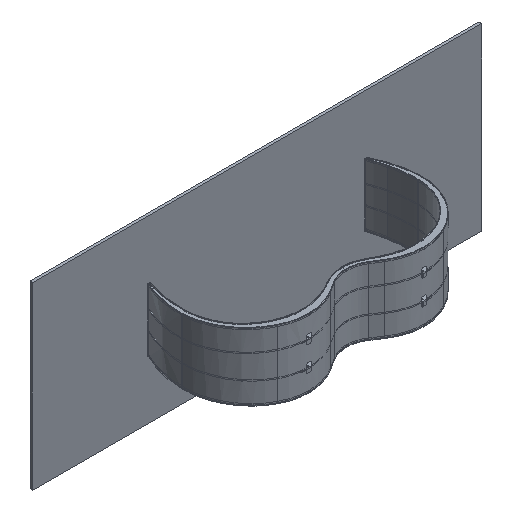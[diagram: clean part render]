
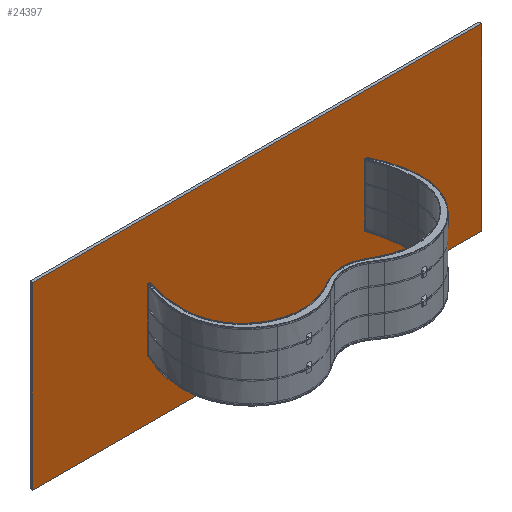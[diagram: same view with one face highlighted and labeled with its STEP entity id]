
A CAD part, isometric view. The second image highlights one B-rep face of the part: STEP entity #24397.
In plain terms, the highlighted planar face has unit normal (0, -1, 0).
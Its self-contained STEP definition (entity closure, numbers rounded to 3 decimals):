
#240 = VERTEX_POINT ( 'NONE', #9665 ) ;
#407 = VECTOR ( 'NONE', #1129, 1000. ) ;
#1129 = DIRECTION ( 'NONE',  ( 0., 0., 1. ) ) ;
#1268 = DIRECTION ( 'NONE',  ( 0., -1., 0. ) ) ;
#1282 = VERTEX_POINT ( 'NONE', #26096 ) ;
#2052 = ORIENTED_EDGE ( 'NONE', *, *, #13782, .F. ) ;
#3345 = ORIENTED_EDGE ( 'NONE', *, *, #17561, .F. ) ;
#4253 = CARTESIAN_POINT ( 'NONE',  ( 1500., 0., -600. ) ) ;
#4965 = CIRCLE ( 'NONE', #28993, 5. ) ;
#5071 = EDGE_CURVE ( 'NONE', #33673, #1282, #24598, .T. ) ;
#5507 = DIRECTION ( 'NONE',  ( 0., -1., 0. ) ) ;
#6039 = DIRECTION ( 'NONE',  ( 0., -1., 0. ) ) ;
#7929 = VERTEX_POINT ( 'NONE', #27678 ) ;
#7930 = DIRECTION ( 'NONE',  ( 0., 0., 1. ) ) ;
#7970 = DIRECTION ( 'NONE',  ( 0., 0., 1. ) ) ;
#8295 = CIRCLE ( 'NONE', #27378, 5. ) ;
#8460 = DIRECTION ( 'NONE',  ( 0., 1., 0. ) ) ;
#8634 = CARTESIAN_POINT ( 'NONE',  ( 0., 0., 0. ) ) ;
#9227 = ORIENTED_EDGE ( 'NONE', *, *, #31559, .T. ) ;
#9379 = CARTESIAN_POINT ( 'NONE',  ( -1500., 0., 600. ) ) ;
#9532 = DIRECTION ( 'NONE',  ( 0., 0., -1. ) ) ;
#9665 = CARTESIAN_POINT ( 'NONE',  ( -1500., 0., 595. ) ) ;
#10729 = VECTOR ( 'NONE', #9532, 1000. ) ;
#10880 = CARTESIAN_POINT ( 'NONE',  ( 1495., 0., -600. ) ) ;
#11677 = VERTEX_POINT ( 'NONE', #24953 ) ;
#11812 = CIRCLE ( 'NONE', #33160, 5. ) ;
#12771 = DIRECTION ( 'NONE',  ( 0., -1., 0. ) ) ;
#13024 = EDGE_CURVE ( 'NONE', #7929, #1282, #11812, .T. ) ;
#13100 = PLANE ( 'NONE',  #26260 ) ;
#13330 = EDGE_LOOP ( 'NONE', ( #3345, #26034, #19437, #9227, #24432, #22661, #2052, #33519 ) ) ;
#13445 = DIRECTION ( 'NONE',  ( 0., 0., 1. ) ) ;
#13570 = CARTESIAN_POINT ( 'NONE',  ( 1500., 0., -595. ) ) ;
#13782 = EDGE_CURVE ( 'NONE', #28047, #30090, #19879, .T. ) ;
#15096 = VECTOR ( 'NONE', #20049, 1000. ) ;
#16815 = CARTESIAN_POINT ( 'NONE',  ( 1495., 0., -595. ) ) ;
#16904 = DIRECTION ( 'NONE',  ( 1., 0., 0. ) ) ;
#17313 = CIRCLE ( 'NONE', #33721, 5. ) ;
#17557 = LINE ( 'NONE', #4253, #10729 ) ;
#17561 = EDGE_CURVE ( 'NONE', #7929, #25571, #17557, .T. ) ;
#18788 = CARTESIAN_POINT ( 'NONE',  ( -1495., 0., 600. ) ) ;
#19075 = CARTESIAN_POINT ( 'NONE',  ( -1500., 0., -600. ) ) ;
#19437 = ORIENTED_EDGE ( 'NONE', *, *, #5071, .F. ) ;
#19747 = LINE ( 'NONE', #19075, #407 ) ;
#19879 = LINE ( 'NONE', #27728, #15096 ) ;
#20049 = DIRECTION ( 'NONE',  ( -1., 0., 0. ) ) ;
#20771 = EDGE_CURVE ( 'NONE', #11677, #240, #19747, .T. ) ;
#21082 = CARTESIAN_POINT ( 'NONE',  ( -1495., 0., -595. ) ) ;
#22661 = ORIENTED_EDGE ( 'NONE', *, *, #25485, .T. ) ;
#22897 = EDGE_CURVE ( 'NONE', #28047, #25571, #4965, .T. ) ;
#24397 = ADVANCED_FACE ( 'NONE', ( #28989 ), #13100, .F. ) ;
#24432 = ORIENTED_EDGE ( 'NONE', *, *, #20771, .F. ) ;
#24598 = LINE ( 'NONE', #9379, #27261 ) ;
#24953 = CARTESIAN_POINT ( 'NONE',  ( -1500., 0., -595. ) ) ;
#25006 = DIRECTION ( 'NONE',  ( 0., 0., 1. ) ) ;
#25485 = EDGE_CURVE ( 'NONE', #11677, #30090, #8295, .T. ) ;
#25571 = VERTEX_POINT ( 'NONE', #13570 ) ;
#26034 = ORIENTED_EDGE ( 'NONE', *, *, #13024, .T. ) ;
#26096 = CARTESIAN_POINT ( 'NONE',  ( 1495., 0., 600. ) ) ;
#26260 = AXIS2_PLACEMENT_3D ( 'NONE', #8634, #8460, #7970 ) ;
#27261 = VECTOR ( 'NONE', #16904, 1000. ) ;
#27378 = AXIS2_PLACEMENT_3D ( 'NONE', #21082, #6039, #7930 ) ;
#27678 = CARTESIAN_POINT ( 'NONE',  ( 1500., 0., 595. ) ) ;
#27728 = CARTESIAN_POINT ( 'NONE',  ( -1500., 0., -600. ) ) ;
#28047 = VERTEX_POINT ( 'NONE', #10880 ) ;
#28407 = CARTESIAN_POINT ( 'NONE',  ( 1495., 0., 595. ) ) ;
#28746 = DIRECTION ( 'NONE',  ( 0., 0., 1. ) ) ;
#28989 = FACE_OUTER_BOUND ( 'NONE', #13330, .T. ) ;
#28993 = AXIS2_PLACEMENT_3D ( 'NONE', #16815, #1268, #25006 ) ;
#30090 = VERTEX_POINT ( 'NONE', #32158 ) ;
#31559 = EDGE_CURVE ( 'NONE', #33673, #240, #17313, .T. ) ;
#32158 = CARTESIAN_POINT ( 'NONE',  ( -1495., 0., -600. ) ) ;
#32973 = CARTESIAN_POINT ( 'NONE',  ( -1495., 0., 595. ) ) ;
#33160 = AXIS2_PLACEMENT_3D ( 'NONE', #28407, #5507, #28746 ) ;
#33519 = ORIENTED_EDGE ( 'NONE', *, *, #22897, .T. ) ;
#33673 = VERTEX_POINT ( 'NONE', #18788 ) ;
#33721 = AXIS2_PLACEMENT_3D ( 'NONE', #32973, #12771, #13445 ) ;
